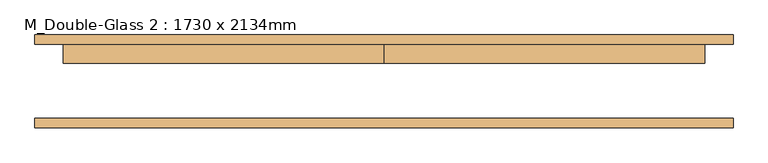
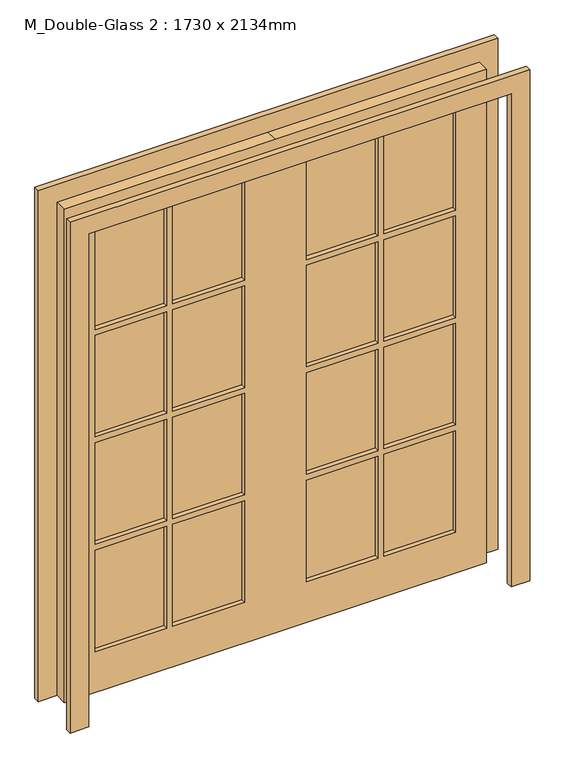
"""IFC4 building model written with IfcOpenShell, lengths in millimetres: door geometry, M_Double-Glass 2 : 1730 x 2134mm."""

from ifc_helpers import new_model, si_unit, frame, origin, place, context, project, spatial, polyline, outline, extrude, source, transform, mapped, element, save


def m_double_glass_2_1730_x_2134mm_888b7f1c(model_context):
    return source(origin(), model_context, "Body", "SweptSolid", [
        extrude(outline(polyline([(445.0, 80.95), (738.0, 80.95), (738.0, 68.25), (445.0, 68.25), (445.0, 80.95)])), frame((0.0, 0.0, 1569.25), z_axis=(0.0, 0.0, 1.0), x_axis=(1.0, 0.0, 0.0)), (0.0, 0.0, 1.0), 439.75),
        extrude(outline(polyline([(127.0, 80.95), (420.0, 80.95), (420.0, 68.25), (127.0, 68.25), (127.0, 80.95)])), frame((0.0, 0.0, 1569.25), z_axis=(0.0, 0.0, 1.0), x_axis=(1.0, 0.0, 0.0)), (0.0, 0.0, 1.0), 439.75),
        extrude(outline(polyline([(-420.0, 80.95), (-127.0, 80.95), (-127.0, 68.25), (-420.0, 68.25), (-420.0, 80.95)])), frame((0.0, 0.0, 1569.25), z_axis=(0.0, 0.0, 1.0), x_axis=(1.0, 0.0, 0.0)), (0.0, 0.0, 1.0), 439.75),
        extrude(outline(polyline([(-738.0, 80.95), (-445.0, 80.95), (-445.0, 68.25), (-738.0, 68.25), (-738.0, 80.95)])), frame((0.0, 0.0, 1569.25), z_axis=(0.0, 0.0, 1.0), x_axis=(1.0, 0.0, 0.0)), (0.0, 0.0, 1.0), 439.75),
        extrude(outline(polyline([(-738.0, 80.95), (-445.0, 80.95), (-445.0, 68.25), (-738.0, 68.25), (-738.0, 80.95)])), frame((0.0, 0.0, 1104.5), z_axis=(0.0, 0.0, 1.0), x_axis=(1.0, 0.0, 0.0)), (0.0, 0.0, 1.0), 439.75),
        extrude(outline(polyline([(-420.0, 80.95), (-127.0, 80.95), (-127.0, 68.25), (-420.0, 68.25), (-420.0, 80.95)])), frame((0.0, 0.0, 1104.5), z_axis=(0.0, 0.0, 1.0), x_axis=(1.0, 0.0, 0.0)), (0.0, 0.0, 1.0), 439.75),
        extrude(outline(polyline([(127.0, 80.95), (420.0, 80.95), (420.0, 68.25), (127.0, 68.25), (127.0, 80.95)])), frame((0.0, 0.0, 1104.5), z_axis=(0.0, 0.0, 1.0), x_axis=(1.0, 0.0, 0.0)), (0.0, 0.0, 1.0), 439.75),
        extrude(outline(polyline([(445.0, 80.95), (738.0, 80.95), (738.0, 68.25), (445.0, 68.25), (445.0, 80.95)])), frame((0.0, 0.0, 1104.5), z_axis=(0.0, 0.0, 1.0), x_axis=(1.0, 0.0, 0.0)), (0.0, 0.0, 1.0), 439.75),
        extrude(outline(polyline([(445.0, 80.95), (738.0, 80.95), (738.0, 68.25), (445.0, 68.25), (445.0, 80.95)])), frame((0.0, 0.0, 639.75), z_axis=(0.0, 0.0, 1.0), x_axis=(1.0, 0.0, 0.0)), (0.0, 0.0, 1.0), 439.75),
        extrude(outline(polyline([(127.0, 80.95), (420.0, 80.95), (420.0, 68.25), (127.0, 68.25), (127.0, 80.95)])), frame((0.0, 0.0, 639.75), z_axis=(0.0, 0.0, 1.0), x_axis=(1.0, 0.0, 0.0)), (0.0, 0.0, 1.0), 439.75),
        extrude(outline(polyline([(-420.0, 80.95), (-127.0, 80.95), (-127.0, 68.25), (-420.0, 68.25), (-420.0, 80.95)])), frame((0.0, 0.0, 639.75), z_axis=(0.0, 0.0, 1.0), x_axis=(1.0, 0.0, 0.0)), (0.0, 0.0, 1.0), 439.75),
        extrude(outline(polyline([(-738.0, 80.95), (-445.0, 80.95), (-445.0, 68.25), (-738.0, 68.25), (-738.0, 80.95)])), frame((0.0, 0.0, 639.75), z_axis=(0.0, 0.0, 1.0), x_axis=(1.0, 0.0, 0.0)), (0.0, 0.0, 1.0), 439.75),
        extrude(outline(polyline([(445.0, 80.95), (738.0, 80.95), (738.0, 68.25), (445.0, 68.25), (445.0, 80.95)])), frame((0.0, 0.0, 175.0), z_axis=(0.0, 0.0, 1.0), x_axis=(1.0, 0.0, 0.0)), (0.0, 0.0, 1.0), 439.75),
        extrude(outline(polyline([(127.0, 80.95), (420.0, 80.95), (420.0, 68.25), (127.0, 68.25), (127.0, 80.95)])), frame((0.0, 0.0, 175.0), z_axis=(0.0, 0.0, 1.0), x_axis=(1.0, 0.0, 0.0)), (0.0, 0.0, 1.0), 439.75),
        extrude(outline(polyline([(-420.0, 80.95), (-127.0, 80.95), (-127.0, 68.25), (-420.0, 68.25), (-420.0, 80.95)])), frame((0.0, 0.0, 175.0), z_axis=(0.0, 0.0, 1.0), x_axis=(1.0, 0.0, 0.0)), (0.0, 0.0, 1.0), 439.75),
        extrude(outline(polyline([(-738.0, 80.95), (-445.0, 80.95), (-445.0, 68.25), (-738.0, 68.25), (-738.0, 80.95)])), frame((0.0, 0.0, 175.0), z_axis=(0.0, 0.0, 1.0), x_axis=(1.0, 0.0, 0.0)), (0.0, 0.0, 1.0), 439.75),
        extrude(outline(polyline([(2134.0, 0.0), (2134.0, -865.0), (0.0, -865.0), (0.0, 0.0), (0.0, 865.0), (2134.0, 865.0), (2134.0, 0.0)]), holes=[polyline([(2009.0, 445.0), (2009.0, 738.0), (1569.25, 738.0), (1569.25, 445.0), (2009.0, 445.0)]), polyline([(2009.0, 127.0), (2009.0, 420.0), (1569.25, 420.0), (1569.25, 127.0), (2009.0, 127.0)]), polyline([(1544.25, 445.0), (1544.25, 738.0), (1104.5, 738.0), (1104.5, 445.0), (1544.25, 445.0)]), polyline([(1544.25, 127.0), (1544.25, 420.0), (1104.5, 420.0), (1104.5, 127.0), (1544.25, 127.0)]), polyline([(1079.5, 445.0), (1079.5, 738.0), (639.75, 738.0), (639.75, 445.0), (1079.5, 445.0)]), polyline([(1079.5, 127.0), (1079.5, 420.0), (639.75, 420.0), (639.75, 127.0), (1079.5, 127.0)]), polyline([(614.75, 445.0), (614.75, 738.0), (175.0, 738.0), (175.0, 445.0), (614.75, 445.0)]), polyline([(614.75, 127.0), (614.75, 420.0), (175.0, 420.0), (175.0, 127.0), (614.75, 127.0)]), polyline([(2009.0, -420.0), (2009.0, -127.0), (1569.25, -127.0), (1569.25, -420.0), (2009.0, -420.0)]), polyline([(1544.25, -420.0), (1544.25, -127.0), (1104.5, -127.0), (1104.5, -420.0), (1544.25, -420.0)]), polyline([(1544.25, -445.0), (1104.5, -445.0), (1104.5, -738.0), (1544.25, -738.0), (1544.25, -445.0)]), polyline([(1079.5, -420.0), (1079.5, -127.0), (639.75, -127.0), (639.75, -420.0), (1079.5, -420.0)]), polyline([(1079.5, -445.0), (639.75, -445.0), (639.75, -738.0), (1079.5, -738.0), (1079.5, -445.0)]), polyline([(614.75, -420.0), (614.75, -127.0), (175.0, -127.0), (175.0, -420.0), (614.75, -420.0)]), polyline([(614.75, -738.0), (614.75, -445.0), (175.0, -445.0), (175.0, -738.0), (614.75, -738.0)]), polyline([(1569.25, -445.0), (1569.25, -738.0), (2009.0, -738.0), (2009.0, -445.0), (1569.25, -445.0)])]), frame((0.0, 49.0, 0.0), z_axis=(0.0, 1.0, 0.0), x_axis=(0.0, 0.0, 1.0)), (0.0, 0.0, 1.0), 51.0),
        extrude(outline(polyline([(2134.0, -865.0), (2134.0, 865.0), (0.0, 865.0), (0.0, 941.0), (2210.0, 941.0), (2210.0, -941.0), (0.0, -941.0), (0.0, -865.0), (2134.0, -865.0)])), frame((0.0, -125.0, 0.0), z_axis=(0.0, 1.0, 0.0), x_axis=(0.0, 0.0, 1.0)), (0.0, 0.0, 1.0), 25.0),
        extrude(outline(polyline([(2134.0, -865.0), (2134.0, 865.0), (0.0, 865.0), (0.0, 941.0), (2210.0, 941.0), (2210.0, -941.0), (0.0, -941.0), (0.0, -865.0), (2134.0, -865.0)])), frame((0.0, 100.0, 0.0), z_axis=(0.0, 1.0, 0.0), x_axis=(0.0, 0.0, 1.0)), (0.0, 0.0, 1.0), 25.0),
    ])


if __name__ == "__main__":
    model = new_model("IFC4")
    model_context = context("Model", 3, world=origin())
    ifc_project = project(units=[si_unit("LENGTHUNIT", "METRE", prefix="MILLI")], contexts=[model_context])
    site = spatial("IfcSite", under=ifc_project)
    building = spatial("IfcBuilding", under=site)
    placement = place(None, origin())
    m_double_glass_2_1730_x_2134mm_shape = m_double_glass_2_1730_x_2134mm_888b7f1c(model_context)
    element("IfcDoor", 1, ObjectType="M_Double-Glass 2 : 1730 x 2134mm", at=placement, inside=building, context=model_context, shape_type="MappedRepresentation", body=[
        mapped(m_double_glass_2_1730_x_2134mm_shape, transform((0.0, 0.0, 0.0), x_axis=(1.0, 0.0, 0.0), y_axis=(0.0, 1.0, 0.0), z_axis=(0.0, 0.0, 1.0))),
    ])
    save(model, "model.ifc")
